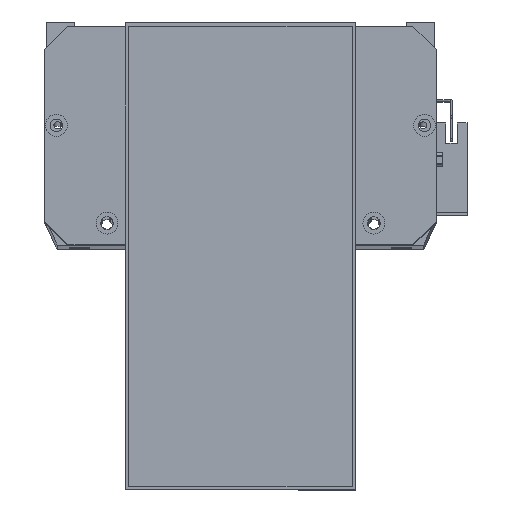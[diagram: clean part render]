
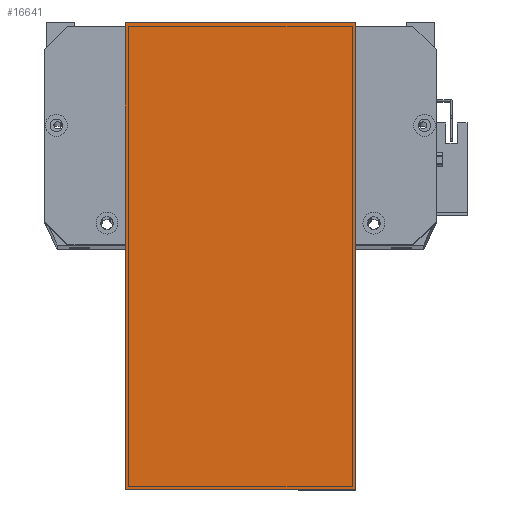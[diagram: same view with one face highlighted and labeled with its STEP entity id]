
A CAD part, top view. The second image highlights one B-rep face of the part: STEP entity #16641.
In plain terms, the highlighted planar face has unit normal (0, 0, 1) as drawn and (0, 0, -1) by its records, which use the part's own axes.
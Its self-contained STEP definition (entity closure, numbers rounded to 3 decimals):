
#34 = CARTESIAN_POINT ( 'NONE',  ( 203., 119.5, 0. ) ) ;
#336 = ORIENTED_EDGE ( 'NONE', *, *, #22466, .T. ) ;
#724 = LINE ( 'NONE', #1479, #5888 ) ;
#984 = VERTEX_POINT ( 'NONE', #34 ) ;
#1479 = CARTESIAN_POINT ( 'NONE',  ( 0., 0., 0. ) ) ;
#1586 = VECTOR ( 'NONE', #24278, 1000. ) ;
#1693 = VERTEX_POINT ( 'NONE', #21498 ) ;
#1746 = VERTEX_POINT ( 'NONE', #8342 ) ;
#2269 = LINE ( 'NONE', #17595, #1586 ) ;
#3465 = VECTOR ( 'NONE', #13392, 1000. ) ;
#3622 = EDGE_LOOP ( 'NONE', ( #11585, #18382, #336, #13251 ) ) ;
#5341 = VECTOR ( 'NONE', #9056, 1000. ) ;
#5888 = VECTOR ( 'NONE', #14709, 1000. ) ;
#5947 = CARTESIAN_POINT ( 'NONE',  ( 0., 0., 0. ) ) ;
#8342 = CARTESIAN_POINT ( 'NONE',  ( 0., 19.5, 0. ) ) ;
#9056 = DIRECTION ( 'NONE',  ( 1., 0., 0. ) ) ;
#9345 = LINE ( 'NONE', #24473, #3465 ) ;
#9582 = EDGE_CURVE ( 'NONE', #25340, #984, #9345, .T. ) ;
#10206 = FACE_OUTER_BOUND ( 'NONE', #3622, .T. ) ;
#10402 = DIRECTION ( 'NONE',  ( -1., 0., 0. ) ) ;
#11585 = ORIENTED_EDGE ( 'NONE', *, *, #16876, .F. ) ;
#13251 = ORIENTED_EDGE ( 'NONE', *, *, #9582, .F. ) ;
#13392 = DIRECTION ( 'NONE',  ( 0., 1., 0. ) ) ;
#14395 = AXIS2_PLACEMENT_3D ( 'NONE', #5947, #23691, #10402 ) ;
#14709 = DIRECTION ( 'NONE',  ( 0., -1., 0. ) ) ;
#16641 = ADVANCED_FACE ( 'NONE', ( #10206 ), #21427, .T. ) ;
#16876 = EDGE_CURVE ( 'NONE', #1746, #25340, #27558, .T. ) ;
#17595 = CARTESIAN_POINT ( 'NONE',  ( -12., 119.5, 0. ) ) ;
#18382 = ORIENTED_EDGE ( 'NONE', *, *, #18857, .F. ) ;
#18857 = EDGE_CURVE ( 'NONE', #1693, #1746, #724, .T. ) ;
#21427 = PLANE ( 'NONE',  #14395 ) ;
#21498 = CARTESIAN_POINT ( 'NONE',  ( 0., 119.5, 0. ) ) ;
#22466 = EDGE_CURVE ( 'NONE', #1693, #984, #2269, .T. ) ;
#23691 = DIRECTION ( 'NONE',  ( 0., 0., -1. ) ) ;
#24278 = DIRECTION ( 'NONE',  ( 1., 0., 0. ) ) ;
#24473 = CARTESIAN_POINT ( 'NONE',  ( 203., 0., 0. ) ) ;
#24548 = CARTESIAN_POINT ( 'NONE',  ( -12., 19.5, 0. ) ) ;
#25340 = VERTEX_POINT ( 'NONE', #26451 ) ;
#26451 = CARTESIAN_POINT ( 'NONE',  ( 203., 19.5, 0. ) ) ;
#27558 = LINE ( 'NONE', #24548, #5341 ) ;
